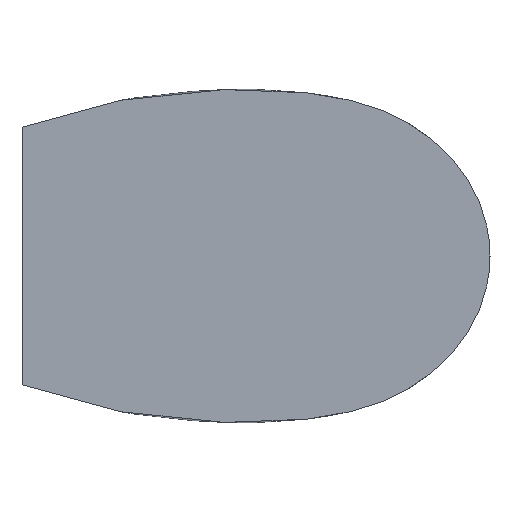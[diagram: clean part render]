
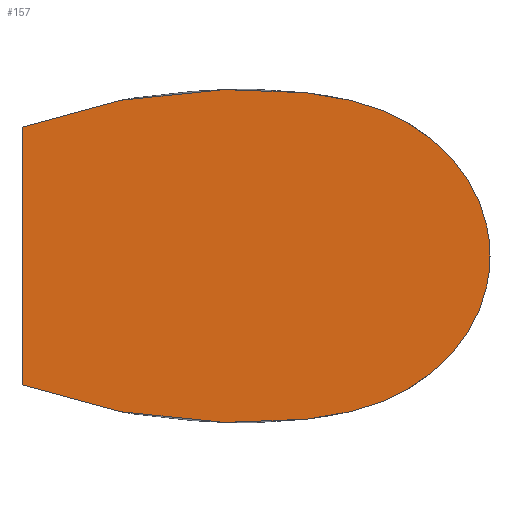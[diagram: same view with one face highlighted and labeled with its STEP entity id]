
A CAD part, left-side view. The second image highlights one B-rep face of the part: STEP entity #157.
In plain terms, the highlighted planar face has unit normal (-1, 0, 0).
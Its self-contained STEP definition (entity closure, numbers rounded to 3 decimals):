
#2=DIRECTION('',(0.,0.,-1.));
#3=VECTOR('',#2,1.668);
#4=CARTESIAN_POINT('',(-9.,-0.3,0.834));
#5=LINE('',#4,#3);
#10=CARTESIAN_POINT('',(-9.,-0.3,0.834));
#11=CARTESIAN_POINT('',(-9.,-0.42,0.878));
#12=CARTESIAN_POINT('',(-9.,-0.659,0.952));
#13=CARTESIAN_POINT('',(-9.,-0.963,1.016));
#14=CARTESIAN_POINT('',(-9.,-1.212,1.05));
#15=CARTESIAN_POINT('',(-9.,-1.403,1.067));
#16=CARTESIAN_POINT('',(-9.,-1.598,1.078));
#17=CARTESIAN_POINT('',(-9.,-1.811,1.082));
#18=CARTESIAN_POINT('',(-9.,-2.045,1.07));
#19=CARTESIAN_POINT('',(-9.,-2.298,1.037));
#20=CARTESIAN_POINT('',(-9.,-2.554,0.981));
#21=CARTESIAN_POINT('',(-9.,-2.798,0.873));
#22=CARTESIAN_POINT('',(-9.,-3.016,0.715));
#23=CARTESIAN_POINT('',(-9.,-3.191,0.508));
#24=CARTESIAN_POINT('',(-9.,-3.304,0.263));
#25=CARTESIAN_POINT('',(-9.,-3.329,0.087));
#26=CARTESIAN_POINT('',(-9.,-3.329,0.));
#28=CARTESIAN_POINT('',(-9.,-0.3,-0.834));
#29=CARTESIAN_POINT('',(-9.,-0.42,-0.878));
#30=CARTESIAN_POINT('',(-9.,-0.659,-0.952));
#31=CARTESIAN_POINT('',(-9.,-0.963,-1.016));
#32=CARTESIAN_POINT('',(-9.,-1.212,-1.05));
#33=CARTESIAN_POINT('',(-9.,-1.403,-1.067));
#34=CARTESIAN_POINT('',(-9.,-1.598,-1.078));
#35=CARTESIAN_POINT('',(-9.,-1.811,-1.082));
#36=CARTESIAN_POINT('',(-9.,-2.045,-1.07));
#37=CARTESIAN_POINT('',(-9.,-2.298,-1.037));
#38=CARTESIAN_POINT('',(-9.,-2.554,-0.981));
#39=CARTESIAN_POINT('',(-9.,-2.798,-0.873));
#40=CARTESIAN_POINT('',(-9.,-3.016,-0.715));
#41=CARTESIAN_POINT('',(-9.,-3.191,-0.508));
#42=CARTESIAN_POINT('',(-9.,-3.304,-0.263));
#43=CARTESIAN_POINT('',(-9.,-3.329,-0.087));
#44=CARTESIAN_POINT('',(-9.,-3.329,0.));
#122=CARTESIAN_POINT('',(-9.,-0.3,0.834));
#123=CARTESIAN_POINT('',(-9.,-0.3,-0.834));
#124=VERTEX_POINT('',#122);
#125=VERTEX_POINT('',#123);
#126=VERTEX_POINT('',#26);
#145=CARTESIAN_POINT('',(-9.,0.,0.));
#146=DIRECTION('',(1.,0.,0.));
#147=DIRECTION('',(0.,0.,-1.));
#148=AXIS2_PLACEMENT_3D('',#145,#146,#147);
#149=PLANE('',#148);
#150=ORIENTED_EDGE('',*,*,#132,.F.);
#152=ORIENTED_EDGE('',*,*,#151,.T.);
#154=ORIENTED_EDGE('',*,*,#153,.F.);
#155=EDGE_LOOP('',(#150,#152,#154));
#156=FACE_OUTER_BOUND('',#155,.F.);
#157=ADVANCED_FACE('',(#156),#149,.F.);
#27=B_SPLINE_CURVE_WITH_KNOTS('',3,(#10,#11,#12,#13,#14,#15,#16,#17,#18,#19,#20,
#21,#22,#23,#24,#25,#26),.UNSPECIFIED.,.F.,.F.,(4,1,1,1,1,1,1,1,1,1,1,1,1,1,4),(
0.,0.114,0.229,0.286,0.343,
0.4,0.457,0.525,0.593,
0.661,0.729,0.797,0.864,
0.932,1.),.UNSPECIFIED.);
#45=B_SPLINE_CURVE_WITH_KNOTS('',3,(#28,#29,#30,#31,#32,#33,#34,#35,#36,#37,#38,
#39,#40,#41,#42,#43,#44),.UNSPECIFIED.,.F.,.F.,(4,1,1,1,1,1,1,1,1,1,1,1,1,1,4),(
0.,0.114,0.229,0.286,0.343,
0.4,0.457,0.525,0.593,
0.661,0.729,0.797,0.864,
0.932,1.),.UNSPECIFIED.);
#132=EDGE_CURVE('',#124,#125,#5,.T.);
#151=EDGE_CURVE('',#124,#126,#27,.T.);
#153=EDGE_CURVE('',#125,#126,#45,.T.);
